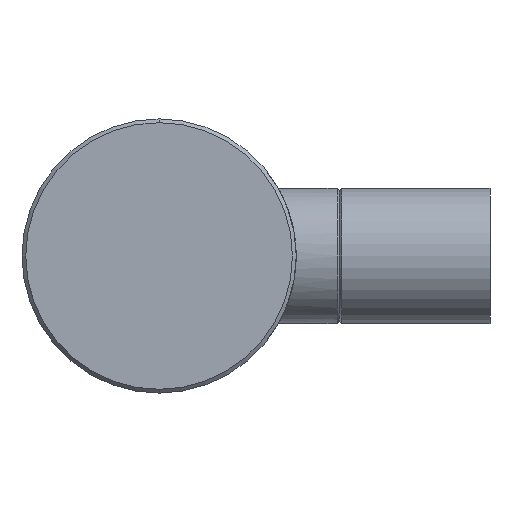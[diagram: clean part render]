
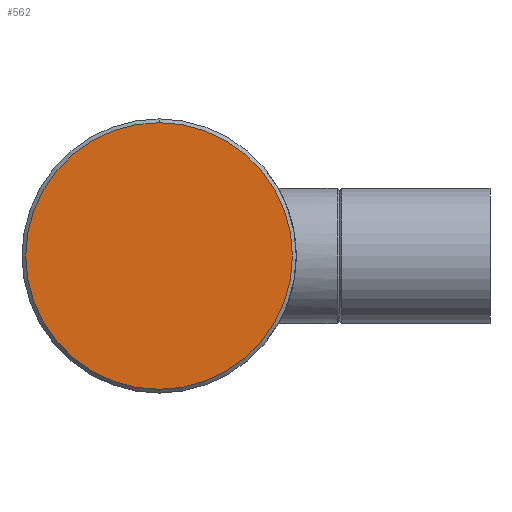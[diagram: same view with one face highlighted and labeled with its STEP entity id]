
A CAD part, left-side view. The second image highlights one B-rep face of the part: STEP entity #562.
In plain terms, the highlighted planar face has unit normal (-1, 0, 0).
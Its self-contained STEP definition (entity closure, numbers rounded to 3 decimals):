
#16 = AXIS2_PLACEMENT_3D ( 'NONE', #1002, #1373, #890 ) ;
#73 = DIRECTION ( 'NONE',  ( 0., 0., 1. ) ) ;
#133 = CIRCLE ( 'NONE', #761, 17.75 ) ;
#144 = VERTEX_POINT ( 'NONE', #1331 ) ;
#191 = CARTESIAN_POINT ( 'NONE',  ( 0., 0., 0. ) ) ;
#224 = CARTESIAN_POINT ( 'NONE',  ( 0., 0., -17.75 ) ) ;
#247 = VERTEX_POINT ( 'NONE', #224 ) ;
#269 = ORIENTED_EDGE ( 'NONE', *, *, #427, .T. ) ;
#270 = EDGE_LOOP ( 'NONE', ( #364, #269 ) ) ;
#364 = ORIENTED_EDGE ( 'NONE', *, *, #894, .T. ) ;
#427 = EDGE_CURVE ( 'NONE', #144, #247, #133, .T. ) ;
#436 = CARTESIAN_POINT ( 'NONE',  ( 0., 0., 0. ) ) ;
#553 = AXIS2_PLACEMENT_3D ( 'NONE', #436, #797, #555 ) ;
#555 = DIRECTION ( 'NONE',  ( 0., 0., 1. ) ) ;
#562 = ADVANCED_FACE ( 'NONE', ( #585 ), #1126, .F. ) ;
#585 = FACE_OUTER_BOUND ( 'NONE', #270, .T. ) ;
#761 = AXIS2_PLACEMENT_3D ( 'NONE', #191, #913, #73 ) ;
#797 = DIRECTION ( 'NONE',  ( -1., 0., 0. ) ) ;
#806 = CIRCLE ( 'NONE', #553, 17.75 ) ;
#890 = DIRECTION ( 'NONE',  ( 0., 0., -1. ) ) ;
#894 = EDGE_CURVE ( 'NONE', #247, #144, #806, .T. ) ;
#913 = DIRECTION ( 'NONE',  ( -1., 0., 0. ) ) ;
#1002 = CARTESIAN_POINT ( 'NONE',  ( 0., 0., 0. ) ) ;
#1126 = PLANE ( 'NONE',  #16 ) ;
#1331 = CARTESIAN_POINT ( 'NONE',  ( 0., 0., 17.75 ) ) ;
#1373 = DIRECTION ( 'NONE',  ( 1., 0., 0. ) ) ;
